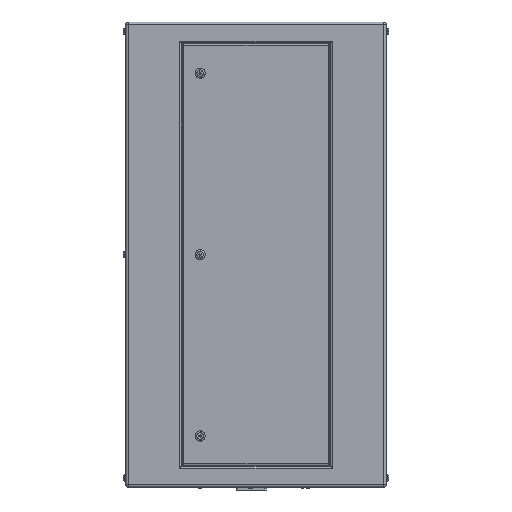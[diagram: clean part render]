
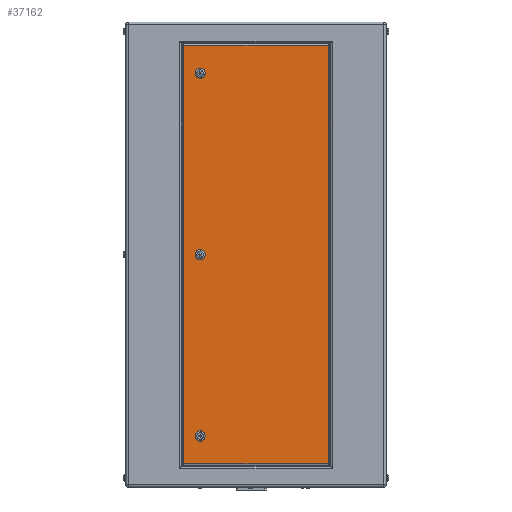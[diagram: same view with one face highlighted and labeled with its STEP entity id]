
A CAD part, left-side view. The second image highlights one B-rep face of the part: STEP entity #37162.
In plain terms, the highlighted planar face has unit normal (-1, 0, 0).
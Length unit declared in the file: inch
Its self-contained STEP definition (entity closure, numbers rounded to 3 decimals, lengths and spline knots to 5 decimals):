
#44 = CARTESIAN_POINT ( 'NONE',  ( -18., 7.74, -25. ) ) ;
#527 = FACE_BOUND ( 'NONE', #6348, .T. ) ;
#924 = EDGE_CURVE ( 'NONE', #27200, #36430, #16775, .T. ) ;
#3165 = DIRECTION ( 'NONE',  ( 0., 0., -1. ) ) ;
#3566 = LINE ( 'NONE', #18991, #22813 ) ;
#3614 = ORIENTED_EDGE ( 'NONE', *, *, #18181, .T. ) ;
#3656 = DIRECTION ( 'NONE',  ( 1., 0., 0. ) ) ;
#3863 = CIRCLE ( 'NONE', #25849, 0.55 ) ;
#4824 = EDGE_CURVE ( 'NONE', #19291, #38445, #5906, .T. ) ;
#5006 = AXIS2_PLACEMENT_3D ( 'NONE', #8746, #32567, #10956 ) ;
#5055 = ORIENTED_EDGE ( 'NONE', *, *, #4824, .T. ) ;
#5906 = LINE ( 'NONE', #44, #26147 ) ;
#6033 = EDGE_CURVE ( 'NONE', #36779, #11169, #21120, .T. ) ;
#6072 = DIRECTION ( 'NONE',  ( 1., 0., 0. ) ) ;
#6219 = FACE_OUTER_BOUND ( 'NONE', #37306, .T. ) ;
#6348 = EDGE_LOOP ( 'NONE', ( #14420, #26803 ) ) ;
#8518 = CARTESIAN_POINT ( 'NONE',  ( -18., 7.74, 22.49 ) ) ;
#8660 = EDGE_LOOP ( 'NONE', ( #16073, #3614 ) ) ;
#8746 = CARTESIAN_POINT ( 'NONE',  ( -18., 6., 19.5 ) ) ;
#9408 = ORIENTED_EDGE ( 'NONE', *, *, #27222, .T. ) ;
#9506 = VERTEX_POINT ( 'NONE', #35805 ) ;
#10470 = DIRECTION ( 'NONE',  ( 1., 0., 0. ) ) ;
#10956 = DIRECTION ( 'NONE',  ( 0., 0., -1. ) ) ;
#11169 = VERTEX_POINT ( 'NONE', #19989 ) ;
#11942 = VECTOR ( 'NONE', #20932, 39.37008 ) ;
#12720 = CARTESIAN_POINT ( 'NONE',  ( -18., 6., 18.95 ) ) ;
#13496 = EDGE_CURVE ( 'NONE', #38445, #36779, #30317, .T. ) ;
#14420 = ORIENTED_EDGE ( 'NONE', *, *, #36885, .T. ) ;
#14876 = ORIENTED_EDGE ( 'NONE', *, *, #13496, .T. ) ;
#14908 = FACE_BOUND ( 'NONE', #8660, .T. ) ;
#15307 = CARTESIAN_POINT ( 'NONE',  ( -18., 6., -18.95 ) ) ;
#16073 = ORIENTED_EDGE ( 'NONE', *, *, #924, .T. ) ;
#16775 = CIRCLE ( 'NONE', #36884, 0.55 ) ;
#16817 = DIRECTION ( 'NONE',  ( 0., 0., -1. ) ) ;
#17318 = ORIENTED_EDGE ( 'NONE', *, *, #24645, .T. ) ;
#17564 = DIRECTION ( 'NONE',  ( 0., -1., 0. ) ) ;
#17893 = DIRECTION ( 'NONE',  ( 0., 0., -1. ) ) ;
#18116 = DIRECTION ( 'NONE',  ( 1., 0., 0. ) ) ;
#18181 = EDGE_CURVE ( 'NONE', #36430, #27200, #3863, .T. ) ;
#18280 = CARTESIAN_POINT ( 'NONE',  ( -18., 6., 0.55 ) ) ;
#18699 = DIRECTION ( 'NONE',  ( 1., 0., 0. ) ) ;
#18991 = CARTESIAN_POINT ( 'NONE',  ( -18., 14., 22.49 ) ) ;
#19291 = VERTEX_POINT ( 'NONE', #8518 ) ;
#19353 = EDGE_CURVE ( 'NONE', #11169, #19291, #3566, .T. ) ;
#19989 = CARTESIAN_POINT ( 'NONE',  ( -18., -7.74, 22.49 ) ) ;
#20894 = CARTESIAN_POINT ( 'NONE',  ( -18., 6., -19.5 ) ) ;
#20932 = DIRECTION ( 'NONE',  ( 0., 0., 1. ) ) ;
#21120 = LINE ( 'NONE', #33082, #11942 ) ;
#21281 = DIRECTION ( 'NONE',  ( 0., 0., -1. ) ) ;
#21433 = PLANE ( 'NONE',  #30420 ) ;
#21625 = AXIS2_PLACEMENT_3D ( 'NONE', #24394, #30491, #36204 ) ;
#22042 = ORIENTED_EDGE ( 'NONE', *, *, #6033, .T. ) ;
#22813 = VECTOR ( 'NONE', #34091, 39.37008 ) ;
#23099 = VERTEX_POINT ( 'NONE', #15307 ) ;
#24375 = VERTEX_POINT ( 'NONE', #30724 ) ;
#24394 = CARTESIAN_POINT ( 'NONE',  ( -18., 6., -19.5 ) ) ;
#24425 = CIRCLE ( 'NONE', #27001, 0.55 ) ;
#24645 = EDGE_CURVE ( 'NONE', #31789, #24375, #24425, .T. ) ;
#25849 = AXIS2_PLACEMENT_3D ( 'NONE', #28004, #10470, #16817 ) ;
#26147 = VECTOR ( 'NONE', #3165, 39.37008 ) ;
#26803 = ORIENTED_EDGE ( 'NONE', *, *, #38027, .T. ) ;
#27001 = AXIS2_PLACEMENT_3D ( 'NONE', #36981, #18116, #27721 ) ;
#27200 = VERTEX_POINT ( 'NONE', #32943 ) ;
#27222 = EDGE_CURVE ( 'NONE', #24375, #31789, #32673, .T. ) ;
#27237 = CIRCLE ( 'NONE', #21625, 0.55 ) ;
#27516 = CARTESIAN_POINT ( 'NONE',  ( -18., 6., 0. ) ) ;
#27721 = DIRECTION ( 'NONE',  ( 0., 0., -1. ) ) ;
#28004 = CARTESIAN_POINT ( 'NONE',  ( -18., 6., 0. ) ) ;
#29118 = AXIS2_PLACEMENT_3D ( 'NONE', #20894, #6072, #21281 ) ;
#29931 = VECTOR ( 'NONE', #17564, 39.37008 ) ;
#30032 = CARTESIAN_POINT ( 'NONE',  ( -18., 14., -25. ) ) ;
#30317 = LINE ( 'NONE', #36042, #29931 ) ;
#30420 = AXIS2_PLACEMENT_3D ( 'NONE', #30032, #3656, #17893 ) ;
#30491 = DIRECTION ( 'NONE',  ( 1., 0., 0. ) ) ;
#30724 = CARTESIAN_POINT ( 'NONE',  ( -18., 6., 20.05 ) ) ;
#31789 = VERTEX_POINT ( 'NONE', #12720 ) ;
#32567 = DIRECTION ( 'NONE',  ( 1., 0., 0. ) ) ;
#32673 = CIRCLE ( 'NONE', #5006, 0.55 ) ;
#32943 = CARTESIAN_POINT ( 'NONE',  ( -18., 6., -0.55 ) ) ;
#33082 = CARTESIAN_POINT ( 'NONE',  ( -18., -7.74, -25. ) ) ;
#34091 = DIRECTION ( 'NONE',  ( 0., 1., 0. ) ) ;
#34499 = CARTESIAN_POINT ( 'NONE',  ( -18., -7.74, -22.49 ) ) ;
#34795 = ORIENTED_EDGE ( 'NONE', *, *, #19353, .T. ) ;
#35092 = EDGE_LOOP ( 'NONE', ( #17318, #9408 ) ) ;
#35765 = FACE_BOUND ( 'NONE', #35092, .T. ) ;
#35805 = CARTESIAN_POINT ( 'NONE',  ( -18., 6., -20.05 ) ) ;
#36042 = CARTESIAN_POINT ( 'NONE',  ( -18., 14., -22.49 ) ) ;
#36204 = DIRECTION ( 'NONE',  ( 0., 0., -1. ) ) ;
#36430 = VERTEX_POINT ( 'NONE', #18280 ) ;
#36732 = CIRCLE ( 'NONE', #29118, 0.55 ) ;
#36779 = VERTEX_POINT ( 'NONE', #34499 ) ;
#36884 = AXIS2_PLACEMENT_3D ( 'NONE', #27516, #18699, #36977 ) ;
#36885 = EDGE_CURVE ( 'NONE', #9506, #23099, #27237, .T. ) ;
#36977 = DIRECTION ( 'NONE',  ( 0., 0., -1. ) ) ;
#36981 = CARTESIAN_POINT ( 'NONE',  ( -18., 6., 19.5 ) ) ;
#37162 = ADVANCED_FACE ( 'NONE', ( #527, #14908, #35765, #6219 ), #21433, .F. ) ;
#37306 = EDGE_LOOP ( 'NONE', ( #14876, #22042, #34795, #5055 ) ) ;
#38027 = EDGE_CURVE ( 'NONE', #23099, #9506, #36732, .T. ) ;
#38445 = VERTEX_POINT ( 'NONE', #38889 ) ;
#38889 = CARTESIAN_POINT ( 'NONE',  ( -18., 7.74, -22.49 ) ) ;
